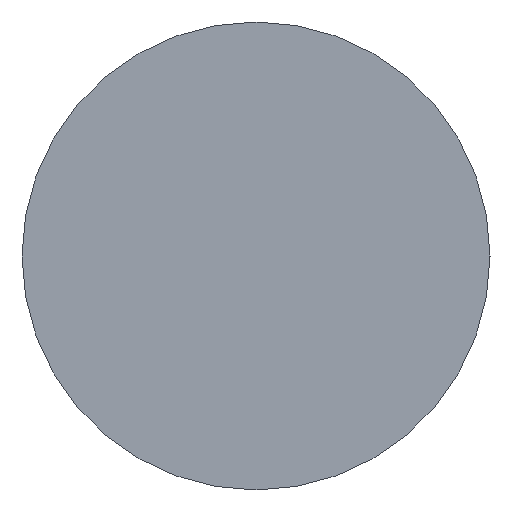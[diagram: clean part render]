
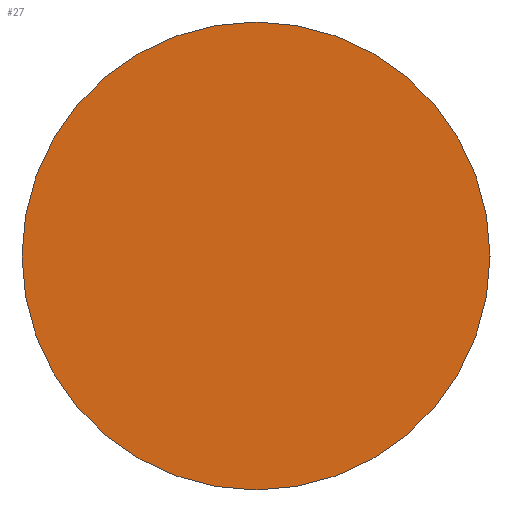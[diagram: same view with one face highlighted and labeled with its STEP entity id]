
A CAD part, left-side view. The second image highlights one B-rep face of the part: STEP entity #27.
In plain terms, the highlighted planar face has unit normal (-1, 0, 0).
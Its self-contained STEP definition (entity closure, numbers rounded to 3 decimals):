
#24 = EDGE_CURVE ( 'NONE', #123, #125, #74, .T. ) ;
#27 = ADVANCED_FACE ( 'NONE', ( #115 ), #114, .F. ) ;
#28 = AXIS2_PLACEMENT_3D ( 'NONE', #47, #43, #38 ) ;
#32 = CIRCLE ( 'NONE', #28, 4. ) ;
#38 = DIRECTION ( 'NONE',  ( 0., 0., 1. ) ) ;
#43 = DIRECTION ( 'NONE',  ( -1., 0., 0. ) ) ;
#47 = CARTESIAN_POINT ( 'NONE',  ( 0., 0., 0. ) ) ;
#52 = CARTESIAN_POINT ( 'NONE',  ( 0., 0., -4. ) ) ;
#53 = CARTESIAN_POINT ( 'NONE',  ( 0., 0., 4. ) ) ;
#72 = AXIS2_PLACEMENT_3D ( 'NONE', #112, #111, #110 ) ;
#73 = AXIS2_PLACEMENT_3D ( 'NONE', #118, #117, #116 ) ;
#74 = CIRCLE ( 'NONE', #73, 4. ) ;
#110 = DIRECTION ( 'NONE',  ( 0., 0., -1. ) ) ;
#111 = DIRECTION ( 'NONE',  ( 1., 0., 0. ) ) ;
#112 = CARTESIAN_POINT ( 'NONE',  ( 0., 0., 0. ) ) ;
#114 = PLANE ( 'NONE',  #72 ) ;
#115 = FACE_OUTER_BOUND ( 'NONE', #127, .T. ) ;
#116 = DIRECTION ( 'NONE',  ( 0., 0., 1. ) ) ;
#117 = DIRECTION ( 'NONE',  ( -1., 0., 0. ) ) ;
#118 = CARTESIAN_POINT ( 'NONE',  ( 0., 0., 0. ) ) ;
#123 = VERTEX_POINT ( 'NONE', #53 ) ;
#125 = VERTEX_POINT ( 'NONE', #52 ) ;
#127 = EDGE_LOOP ( 'NONE', ( #135, #136 ) ) ;
#131 = EDGE_CURVE ( 'NONE', #125, #123, #32, .T. ) ;
#135 = ORIENTED_EDGE ( 'NONE', *, *, #24, .T. ) ;
#136 = ORIENTED_EDGE ( 'NONE', *, *, #131, .T. ) ;
